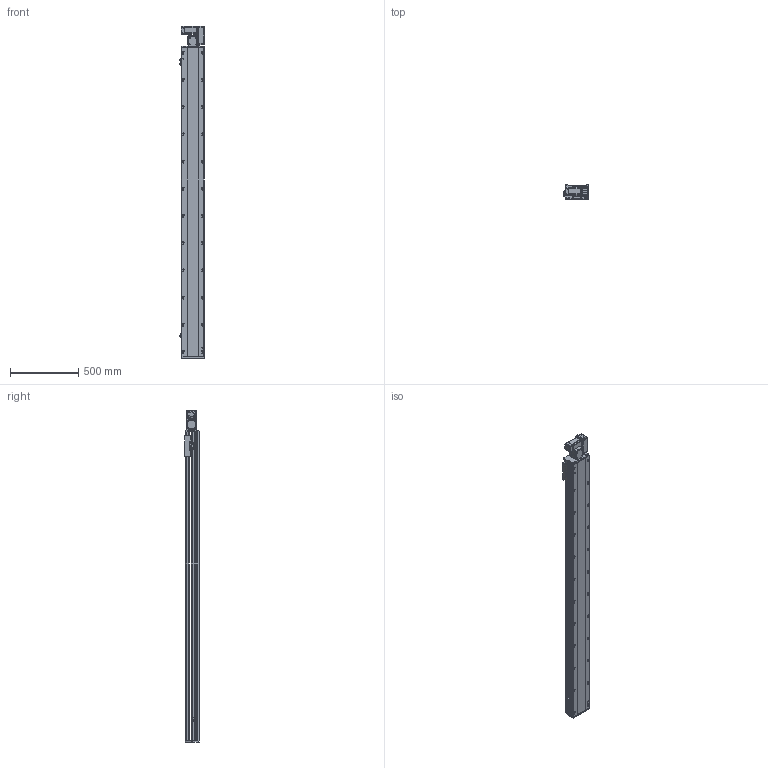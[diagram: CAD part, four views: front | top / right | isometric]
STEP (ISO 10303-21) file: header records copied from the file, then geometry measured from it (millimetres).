
FILE_DESCRIPTION (( 'STEP AP214' ), '1' );
FILE_NAME ('RTB17S-XX-2000-R-M40-C4.STEP', '2025-12-11T07:43:56', ( '' ), ( '' ), 'SwSTEP 2.0', 'SolidWorks 2018', '' );
FILE_SCHEMA (( 'AUTOMOTIVE_DESIGN' ));
Length unit declared in the file: millimetre
Products named in the file (14): RTH13-BL-012覜茼え俋离^RTB17S-XX-XX-R-M40-C4; RTB17S-L-001耜醱啣^RTB17S-XX-XX-R-M40-C4; RTB17S-L-007奻裔^RTB17S-XX-XX-R-M40-C4; RTB17S-L-004佪裝蹟譫蟀諉釱^RTB17S-XX-XX-R-M40-C4; RTB17S-L-014-T20--々湍釱^RTB17S-R-々湍釱蚾饜-400W_RTB17S-XX-XX-R-M40-C4; RTB17S-XX-2000-R-M40-C4; RTB14-L-017P^RTB17S-R-々湍釱蚾饜-400W_RTB17S-XX-XX-R-M40-C4; RTB14-L-018P^RTB17S-R-々湍釱蚾饜-400W_RTB17S-XX-XX-R-M40-C4; RTB17S-R-々湍釱蚾饜-400W^RTB17S-XX-XX-R-M40-C4; OMRON EE-SX672 传感器^RTB17S-XX-XX-R-M40-C4; RTB14-L-008-M20--萇儂啣^RTB17S-R-々湍釱蚾饜-400W_RTB17S-XX-XX-R-M40-C4; RTB17-R-011菁釱^RTB17S-XX-XX-R-M40-C4; 400W侜督萇儂^RTB17S-XX-XX-R-M40-C4; RTB14-L-005P--轴承塑胶压盖^RTB17S-R-皮带座装配-400W_RTB17S-XX-XX-R-M40-C4
Assembly tree (16 placements, depth 3):
  RTB17S-XX-2000-R-M40-C4
    RTB17-R-011菁釱^RTB17S-XX-XX-R-M40-C4
    RTB17S-L-007奻裔^RTB17S-XX-XX-R-M40-C4
    OMRON EE-SX672 传感器^RTB17S-XX-XX-R-M40-C4  x3
    RTB17S-L-001耜醱啣^RTB17S-XX-XX-R-M40-C4
    400W侜督萇儂^RTB17S-XX-XX-R-M40-C4
    RTB17S-L-004佪裝蹟譫蟀諉釱^RTB17S-XX-XX-R-M40-C4
    RTH13-BL-012覜茼え俋离^RTB17S-XX-XX-R-M40-C4
    RTB17S-R-々湍釱蚾饜-400W^RTB17S-XX-XX-R-M40-C4
      RTB17S-L-014-T20--々湍釱^RTB17S-R-々湍釱蚾饜-400W_RTB17S-XX-XX-R-M40-C4
      RTB14-L-005P--轴承塑胶压盖^RTB17S-R-皮带座装配-400W_RTB17S-XX-XX-R-M40-C4
      RTB14-L-008-M20--萇儂啣^RTB17S-R-々湍釱蚾饜-400W_RTB17S-XX-XX-R-M40-C4
      RTB14-L-017P^RTB17S-R-々湍釱蚾饜-400W_RTB17S-XX-XX-R-M40-C4  x2
      RTB14-L-018P^RTB17S-R-々湍釱蚾饜-400W_RTB17S-XX-XX-R-M40-C4
Bounding box: 183.5 x 108 x 2441 mm (x, y, z)
Volume: 20531891.8 mm3; surface area: 2386456.9 mm2
Topology: 15 solids, 15 shells, 2285 faces, 6357 edges, 4149 vertices
Faces by surface type: plane 1078, cylinder 759, bspline 301, cone 139, torus 8
Entity records: 66473 total; most frequent: CARTESIAN_POINT 18762, ORIENTED_EDGE 9558, DIRECTION 8846, EDGE_CURVE 4779, VERTEX_POINT 3137, AXIS2_PLACEMENT_3D 3067, VECTOR 2712, LINE 2712
